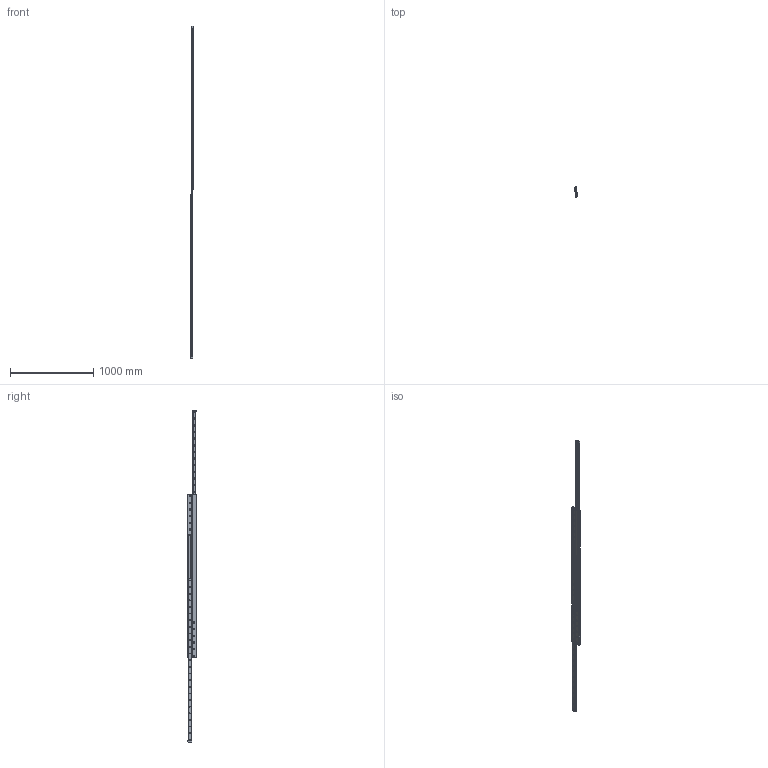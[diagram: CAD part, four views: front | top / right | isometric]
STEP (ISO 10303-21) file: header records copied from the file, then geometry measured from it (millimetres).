
FILE_DESCRIPTION(('STEP AP214'),'1');
FILE_NAME('rail_dss43-1970_01.stp','2017-04-17T04:00:08',('TraceParts'),('TraceParts S.A.'),'Spatial InterOp 3D',' ',' ');
FILE_SCHEMA(('automotive_design'));
Length unit declared in the file: millimetre
Products named in the file (3): rail_dss43-1970_01_1; rail_dss43-1970_01_2; rail_dss43-1970_01_3
Bounding box: 28 x 120 x 3996 mm (x, y, z)
Volume: 3501888.7 mm3; surface area: 1405037.2 mm2
Topology: 3 solids, 3 shells, 414 faces, 1094 edges, 696 vertices
Faces by surface type: cylinder 176, plane 138, cone 100
Entity records: 13159 total; most frequent: DIRECTION 2396, CARTESIAN_POINT 2207, ORIENTED_EDGE 2188, EDGE_CURVE 1094, AXIS2_PLACEMENT_3D 885, VERTEX_POINT 696, LINE 626, VECTOR 626
